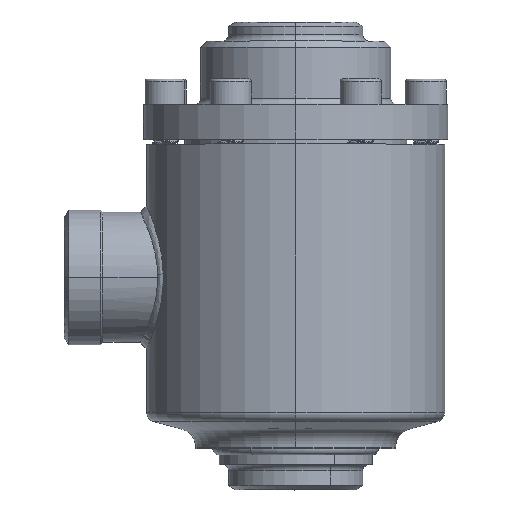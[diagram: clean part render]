
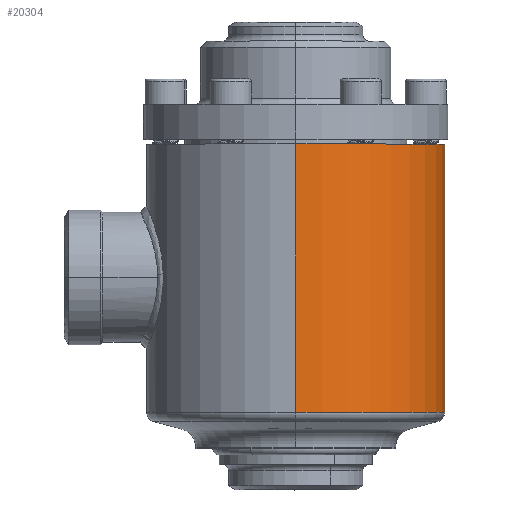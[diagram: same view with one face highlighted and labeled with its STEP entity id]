
A CAD part, top view. The second image highlights one B-rep face of the part: STEP entity #20304.
In plain terms, the highlighted cylindrical face has radius 47 mm (diameter 94 mm), a partial arc.
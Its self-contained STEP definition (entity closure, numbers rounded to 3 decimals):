
#367 = LINE ( 'NONE', #368, #369 ) ;
#368 = CARTESIAN_POINT ( 'NONE',  ( 0., 76.795, 47. ) ) ;
#369 = VECTOR ( 'NONE', #370, 1000. ) ;
#370 = DIRECTION ( 'NONE',  ( 0., 1., 0. ) ) ;
#16864 = VERTEX_POINT ( 'NONE', #17021 ) ;
#17021 = CARTESIAN_POINT ( 'NONE',  ( 0., 80.527, -47. ) ) ;
#17276 = EDGE_CURVE ( 'NONE', #10266, #16864, #17599, .T. ) ;
#17599 = LINE ( 'NONE', #17600, #17601 ) ;
#17600 = CARTESIAN_POINT ( 'NONE',  ( 0., 76.795, -47. ) ) ;
#17601 = VECTOR ( 'NONE', #17602, 1000. ) ;
#17602 = DIRECTION ( 'NONE',  ( 0., 1., 0. ) ) ;
#17950 = ORIENTED_EDGE ( 'NONE', *, *, #17276, .T. ) ;
#18906 = ORIENTED_EDGE ( 'NONE', *, *, #9221, .T. ) ;
#19861 = EDGE_LOOP ( 'NONE', ( #18906, #17950, #15906, #14165 ) ) ;
#20304 = ADVANCED_FACE ( 'NONE', ( #21176 ), #21177, .T. ) ;
#21176 = FACE_OUTER_BOUND ( 'NONE', #19861, .T. ) ;
#21177 = CYLINDRICAL_SURFACE ( 'NONE', #21178, 47. ) ;
#21178 = AXIS2_PLACEMENT_3D ( 'NONE', #21196, #21197, #21198 ) ;
#21196 = CARTESIAN_POINT ( 'NONE',  ( 0., 76.795, 0. ) ) ;
#21197 = DIRECTION ( 'NONE',  ( 0., 1., 0. ) ) ;
#21198 = DIRECTION ( 'NONE',  ( 0., 0., 1. ) ) ;
#6699 = CARTESIAN_POINT ( 'NONE',  ( 0., -4.017, 47. ) ) ;
#9006 = VERTEX_POINT ( 'NONE', #6699 ) ;
#9221 = EDGE_CURVE ( 'NONE', #9006, #10266, #14083, .T. ) ;
#10266 = VERTEX_POINT ( 'NONE', #15234 ) ;
#12810 = EDGE_CURVE ( 'NONE', #9006, #14814, #367, .T. ) ;
#14083 = CIRCLE ( 'NONE', #14084, 47. ) ;
#14084 = AXIS2_PLACEMENT_3D ( 'NONE', #14085, #14086, #14087 ) ;
#14085 = CARTESIAN_POINT ( 'NONE',  ( 0., -4.017, 0. ) ) ;
#14086 = DIRECTION ( 'NONE',  ( 0., 1., 0. ) ) ;
#14087 = DIRECTION ( 'NONE',  ( 0., 0., 1. ) ) ;
#14165 = ORIENTED_EDGE ( 'NONE', *, *, #12810, .F. ) ;
#14814 = VERTEX_POINT ( 'NONE', #14832 ) ;
#14832 = CARTESIAN_POINT ( 'NONE',  ( 0., 80.527, 47. ) ) ;
#15073 = CIRCLE ( 'NONE', #15074, 47. ) ;
#15074 = AXIS2_PLACEMENT_3D ( 'NONE', #15075, #15076, #15077 ) ;
#15075 = CARTESIAN_POINT ( 'NONE',  ( 0., 80.527, 0. ) ) ;
#15076 = DIRECTION ( 'NONE',  ( 0., 1., 0. ) ) ;
#15077 = DIRECTION ( 'NONE',  ( 0., 0., 1. ) ) ;
#15229 = EDGE_CURVE ( 'NONE', #14814, #16864, #15073, .T. ) ;
#15234 = CARTESIAN_POINT ( 'NONE',  ( 0., -4.017, -47. ) ) ;
#15906 = ORIENTED_EDGE ( 'NONE', *, *, #15229, .F. ) ;
